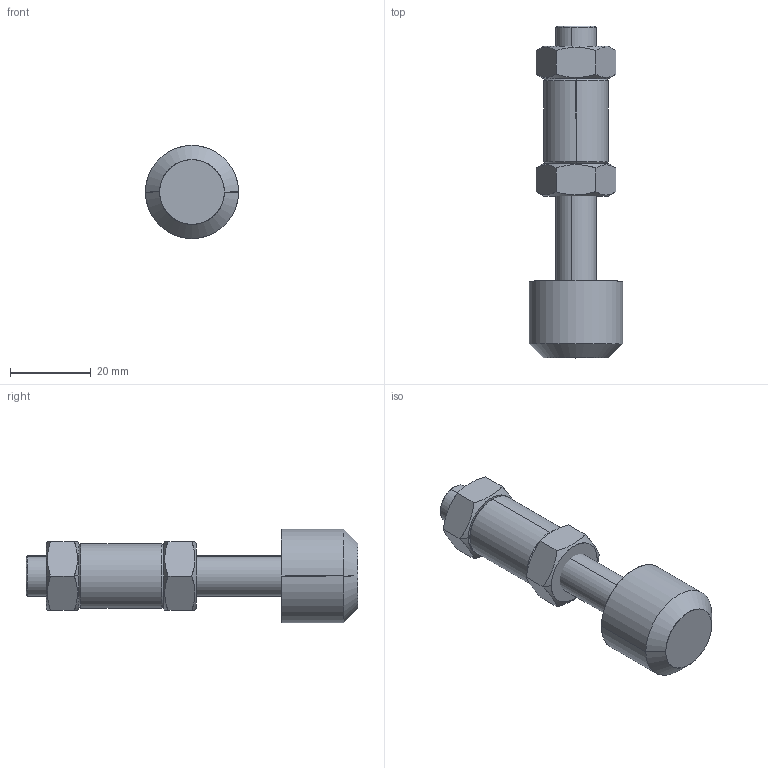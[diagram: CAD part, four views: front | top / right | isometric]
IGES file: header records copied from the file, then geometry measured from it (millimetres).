
Start section: SolidWorks IGES file using analytic representation for surfaces
Global section: file name: C:\Projetos\Ponteiras\BRB\BRB-M10.IGS; native system: SolidWorks 2015; preprocessor: SolidWorks 2015; author: Ricardo; date: 160725.150531; units: millimetre
Bounding box: 23 x 82 x 23 mm (x, y, z)
Surface area: 8685.7 mm2 (no closed solid volume)
Topology: 0 solids, 0 shells, 68 faces, 1104 edges, 1102 vertices
Faces by surface type: revolution 46, bspline 22
